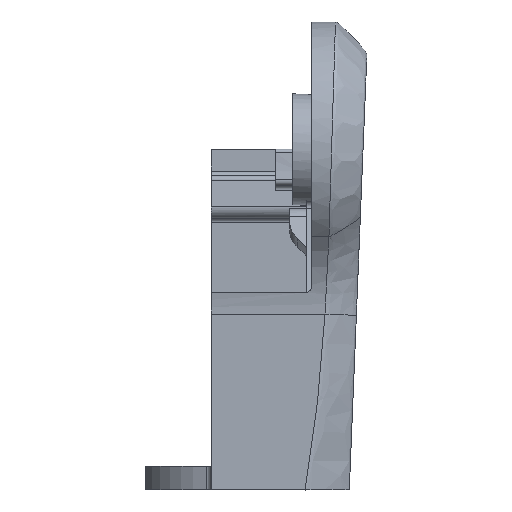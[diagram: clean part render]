
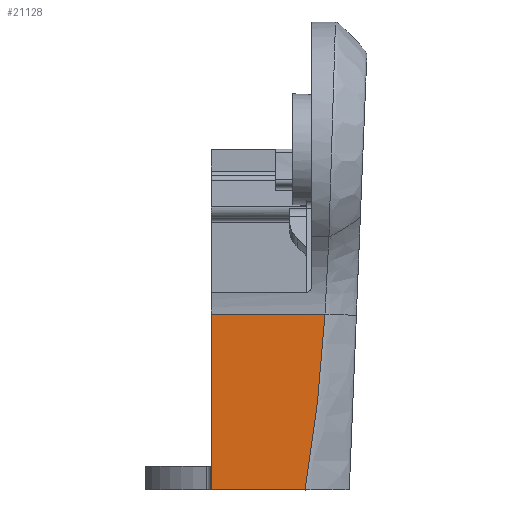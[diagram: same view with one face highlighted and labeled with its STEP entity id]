
A CAD part, front view. The second image highlights one B-rep face of the part: STEP entity #21128.
In plain terms, the highlighted planar face has unit normal (0, -1, 0).
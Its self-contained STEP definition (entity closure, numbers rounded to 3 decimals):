
#2458=DIRECTION('',(0.,0.,-1.));
#2459=VECTOR('',#2458,56.009);
#2460=CARTESIAN_POINT('',(-221.,-24.65,15.509));
#2461=LINE('',#2460,#2459);
#3662=CARTESIAN_POINT('',(-184.753,-24.65,
15.509));
#3770=DIRECTION('',(-1.,0.,0.));
#3771=VECTOR('',#3770,36.247);
#3772=CARTESIAN_POINT('',(-184.753,-24.65,
15.509));
#3773=LINE('',#3772,#3771);
#4707=CARTESIAN_POINT('',(-184.753,-24.65,
15.509));
#4708=CARTESIAN_POINT('',(-185.507,-24.65,
-3.214));
#4709=CARTESIAN_POINT('',(-188.294,-24.65,
-21.859));
#4710=CARTESIAN_POINT('',(-191.072,-24.65,
-40.5));
#4712=DIRECTION('',(-1.,0.,0.));
#4713=VECTOR('',#4712,29.928);
#4714=CARTESIAN_POINT('',(-191.072,-24.65,
-40.5));
#4715=LINE('',#4714,#4713);
#6638=CARTESIAN_POINT('',(-221.,-24.65,-40.5));
#6639=VERTEX_POINT('',#6638);
#6640=CARTESIAN_POINT('',(-191.072,-24.65,
-40.5));
#6641=VERTEX_POINT('',#6640);
#6826=CARTESIAN_POINT('',(-221.,-24.65,15.509));
#6827=VERTEX_POINT('',#6826);
#7086=VERTEX_POINT('',#3662);
#21117=CARTESIAN_POINT('',(865.599,-24.65,
-3.957));
#21118=DIRECTION('',(0.,1.,0.));
#21119=DIRECTION('',(0.,0.,1.));
#21120=AXIS2_PLACEMENT_3D('',#21117,#21118,#21119);
#21121=PLANE('',#21120);
#21122=ORIENTED_EDGE('',*,*,#17555,.T.);
#21123=ORIENTED_EDGE('',*,*,#13273,.T.);
#21124=ORIENTED_EDGE('',*,*,#13830,.F.);
#21125=ORIENTED_EDGE('',*,*,#17645,.F.);
#21126=EDGE_LOOP('',(#21122,#21123,#21124,#21125));
#21127=FACE_OUTER_BOUND('',#21126,.F.);
#21128=ADVANCED_FACE('',(#21127),#21121,.F.);
#4711=B_SPLINE_CURVE_WITH_KNOTS('',3,(#4707,#4708,#4709,#4710),.UNSPECIFIED.,
.F.,.F.,(4,4),(0.,1.),.UNSPECIFIED.);
#13273=EDGE_CURVE('',#6641,#6639,#4715,.T.);
#13830=EDGE_CURVE('',#6827,#6639,#2461,.T.);
#17555=EDGE_CURVE('',#7086,#6641,#4711,.T.);
#17645=EDGE_CURVE('',#7086,#6827,#3773,.T.);
